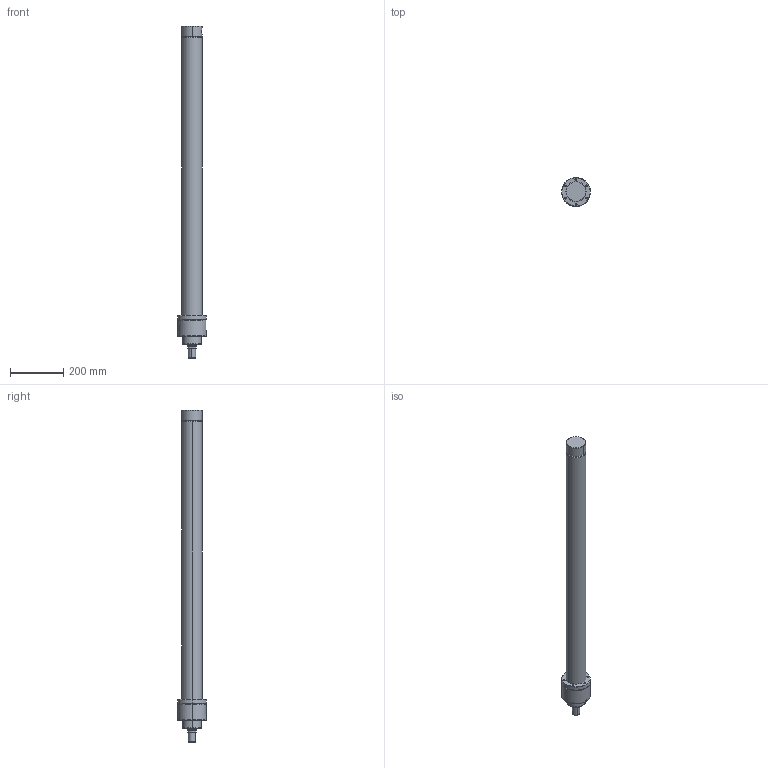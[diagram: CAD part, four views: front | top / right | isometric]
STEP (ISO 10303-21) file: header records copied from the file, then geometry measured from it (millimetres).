
FILE_DESCRIPTION (( 'STEP AP214' ), '1' );
FILE_NAME ('63-35-1000-WEB.STEP', '2021-01-13T12:27:05', ( 'cagdas' ), ( '' ), 'SwSTEP 2.0', 'SolidWorks 2021', '' );
FILE_SCHEMA (( 'AUTOMOTIVE_DESIGN' ));
Length unit declared in the file: millimetre
Products named in the file (6): 63_Gerdirme _Flansý; 63_36_CETOP_烰_KAPAK; 63x75_BORU_WEB; TYAK_63_75; 63-35-1000-WEB; 35_K_MIL_WEB
Assembly tree (5 placements, depth 2):
  63-35-1000-WEB
    63x75_BORU_WEB
    TYAK_63_75
    63_36_CETOP_烰_KAPAK
    63_Gerdirme _Flansý
    35_K_MIL_WEB
Bounding box: 107.99 x 107.99 x 1244 mm (x, y, z)
Volume: 2384292.3 mm3; surface area: 602659.6 mm2
Topology: 5 solids, 5 shells, 377 faces, 925 edges, 590 vertices
Faces by surface type: plane 120, cylinder 102, bspline 87, cone 64, torus 4
Entity records: 17240 total; most frequent: CARTESIAN_POINT 8406, ORIENTED_EDGE 1850, DIRECTION 1528, EDGE_CURVE 925, VERTEX_POINT 590, AXIS2_PLACEMENT_3D 575, EDGE_LOOP 443, VECTOR 378
